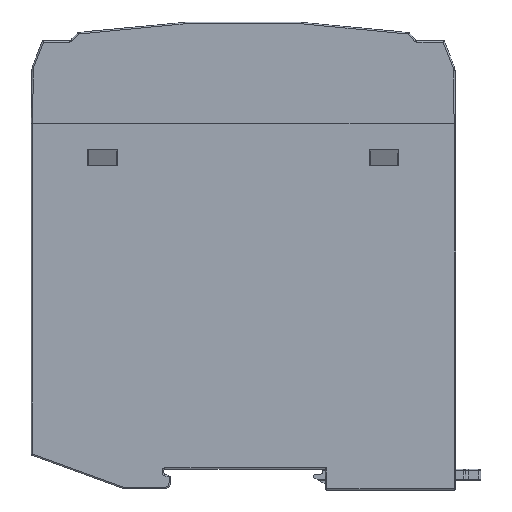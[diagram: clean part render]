
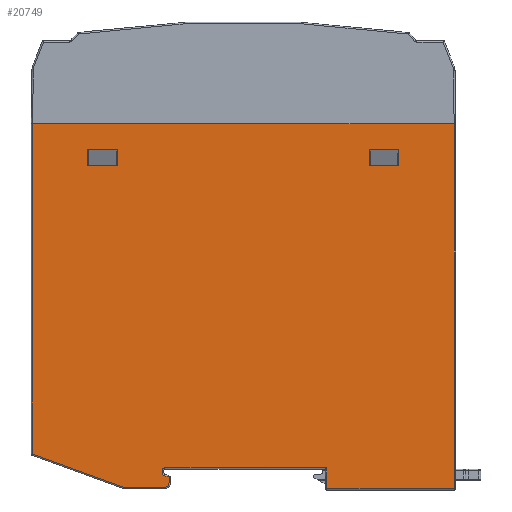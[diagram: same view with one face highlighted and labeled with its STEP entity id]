
A CAD part, left-side view. The second image highlights one B-rep face of the part: STEP entity #20749.
In plain terms, the highlighted planar face has unit normal (-1, 0, 0).
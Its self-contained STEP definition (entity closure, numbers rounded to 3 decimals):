
#10099=DIRECTION('',(0.,0.,1.));
#10100=VECTOR('',#10099,3.5);
#10101=CARTESIAN_POINT('',(229.997,-27.3,-6.595));
#10102=LINE('',#10101,#10100);
#10103=DIRECTION('',(0.,1.,0.));
#10104=VECTOR('',#10103,6.4);
#10105=CARTESIAN_POINT('',(229.997,-33.7,-6.595));
#10106=LINE('',#10105,#10104);
#10107=DIRECTION('',(0.,0.,-1.));
#10108=VECTOR('',#10107,3.5);
#10109=CARTESIAN_POINT('',(229.997,-33.7,-3.095));
#10110=LINE('',#10109,#10108);
#10111=DIRECTION('',(0.,1.,0.));
#10112=VECTOR('',#10111,6.4);
#10113=CARTESIAN_POINT('',(229.997,-33.7,-3.095));
#10114=LINE('',#10113,#10112);
#10115=DIRECTION('',(0.,1.,0.));
#10116=VECTOR('',#10115,6.4);
#10117=CARTESIAN_POINT('',(229.997,27.3,-6.595));
#10118=LINE('',#10117,#10116);
#10119=DIRECTION('',(0.,0.,-1.));
#10120=VECTOR('',#10119,3.5);
#10121=CARTESIAN_POINT('',(229.997,27.3,-3.095));
#10122=LINE('',#10121,#10120);
#10123=DIRECTION('',(0.,1.,0.));
#10124=VECTOR('',#10123,6.4);
#10125=CARTESIAN_POINT('',(229.997,27.3,-3.095));
#10126=LINE('',#10125,#10124);
#10127=DIRECTION('',(0.,0.,1.));
#10128=VECTOR('',#10127,3.5);
#10129=CARTESIAN_POINT('',(229.997,33.7,-6.595));
#10130=LINE('',#10129,#10128);
#10131=DIRECTION('',(0.,0.,-1.));
#10132=VECTOR('',#10131,71.611);
#10133=CARTESIAN_POINT('',(229.997,45.7,2.555));
#10134=LINE('',#10133,#10132);
#10135=DIRECTION('',(0.,1.,0.));
#10136=VECTOR('',#10135,91.4);
#10137=CARTESIAN_POINT('',(229.997,-45.7,2.555));
#10138=LINE('',#10137,#10136);
#10139=DIRECTION('',(0.,0.,1.));
#10140=VECTOR('',#10139,79.1);
#10141=CARTESIAN_POINT('',(229.997,-45.7,-76.545));
#10142=LINE('',#10141,#10140);
#10143=DIRECTION('',(0.,1.,0.));
#10144=VECTOR('',#10143,27.577);
#10145=CARTESIAN_POINT('',(229.997,-45.7,-76.545));
#10146=LINE('',#10145,#10144);
#10147=DIRECTION('',(0.,0.017,1.));
#10148=VECTOR('',#10147,4.501);
#10149=CARTESIAN_POINT('',(229.997,-18.123,-76.545));
#10150=LINE('',#10149,#10148);
#10151=DIRECTION('',(0.,1.,0.));
#10152=VECTOR('',#10151,35.045);
#10153=CARTESIAN_POINT('',(229.997,-18.045,-72.045));
#10154=LINE('',#10153,#10152);
#10155=CARTESIAN_POINT('',(229.997,17.,-72.645));
#10156=DIRECTION('',(1.,0.,0.));
#10157=DIRECTION('',(0.,1.,0.));
#10158=AXIS2_PLACEMENT_3D('',#10155,#10156,#10157);
#10160=DIRECTION('',(0.,0.,1.));
#10161=VECTOR('',#10160,0.49);
#10162=CARTESIAN_POINT('',(229.997,17.6,-73.135));
#10163=LINE('',#10162,#10161);
#10164=CARTESIAN_POINT('',(229.997,17.,-73.135));
#10165=DIRECTION('',(1.,0.,0.));
#10166=DIRECTION('',(0.,0.342,-0.94));
#10167=AXIS2_PLACEMENT_3D('',#10164,#10165,#10166);
#10169=DIRECTION('',(0.,0.94,0.342));
#10170=VECTOR('',#10169,1.176);
#10171=CARTESIAN_POINT('',(229.997,16.1,-74.101));
#10172=LINE('',#10171,#10170);
#10173=DIRECTION('',(0.,0.,1.));
#10174=VECTOR('',#10173,1.194);
#10175=CARTESIAN_POINT('',(229.997,16.1,-75.295));
#10176=LINE('',#10175,#10174);
#10177=CARTESIAN_POINT('',(229.997,17.05,-75.295));
#10178=DIRECTION('',(-1.,0.,0.));
#10179=DIRECTION('',(0.,0.,-1.));
#10180=AXIS2_PLACEMENT_3D('',#10177,#10178,#10179);
#10182=DIRECTION('',(0.,-1.,0.));
#10183=VECTOR('',#10182,8.897);
#10184=CARTESIAN_POINT('',(229.997,25.947,-76.245));
#10185=LINE('',#10184,#10183);
#10186=DIRECTION('',(0.,-0.94,-0.342));
#10187=VECTOR('',#10186,21.021);
#10188=CARTESIAN_POINT('',(229.997,45.7,-69.056));
#10189=LINE('',#10188,#10187);
#18280=CARTESIAN_POINT('',(229.997,-27.3,-6.595));
#18281=CARTESIAN_POINT('',(229.997,-27.3,-3.095));
#18282=VERTEX_POINT('',#18280);
#18283=VERTEX_POINT('',#18281);
#18284=CARTESIAN_POINT('',(229.997,-33.7,-3.095));
#18285=VERTEX_POINT('',#18284);
#18286=CARTESIAN_POINT('',(229.997,-33.7,-6.595));
#18287=VERTEX_POINT('',#18286);
#18288=CARTESIAN_POINT('',(229.997,27.3,-6.595));
#18289=CARTESIAN_POINT('',(229.997,33.7,-6.595));
#18290=VERTEX_POINT('',#18288);
#18291=VERTEX_POINT('',#18289);
#18292=CARTESIAN_POINT('',(229.997,33.7,-3.095));
#18293=VERTEX_POINT('',#18292);
#18294=CARTESIAN_POINT('',(229.997,27.3,-3.095));
#18295=VERTEX_POINT('',#18294);
#18857=CARTESIAN_POINT('',(229.997,45.7,2.555));
#18859=VERTEX_POINT('',#18857);
#18860=CARTESIAN_POINT('',(229.997,45.7,-69.056));
#18861=VERTEX_POINT('',#18860);
#18864=CARTESIAN_POINT('',(229.997,-45.7,-76.545));
#18865=CARTESIAN_POINT('',(229.997,-18.123,-76.545));
#18866=VERTEX_POINT('',#18864);
#18867=VERTEX_POINT('',#18865);
#18913=CARTESIAN_POINT('',(229.997,-18.045,-72.045));
#18914=VERTEX_POINT('',#18913);
#18915=CARTESIAN_POINT('',(229.997,17.,-72.045));
#18916=VERTEX_POINT('',#18915);
#18919=CARTESIAN_POINT('',(229.997,17.6,-73.135));
#18920=CARTESIAN_POINT('',(229.997,17.6,-72.645));
#18921=VERTEX_POINT('',#18919);
#18922=VERTEX_POINT('',#18920);
#18931=CARTESIAN_POINT('',(229.997,16.1,-74.101));
#18932=CARTESIAN_POINT('',(229.997,17.205,-73.699));
#18933=VERTEX_POINT('',#18931);
#18934=VERTEX_POINT('',#18932);
#18939=CARTESIAN_POINT('',(229.997,16.1,-75.295));
#18940=VERTEX_POINT('',#18939);
#18941=CARTESIAN_POINT('',(229.997,17.05,-76.245));
#18942=VERTEX_POINT('',#18941);
#18945=CARTESIAN_POINT('',(229.997,25.947,-76.245));
#18946=VERTEX_POINT('',#18945);
#19036=CARTESIAN_POINT('',(229.997,-45.7,2.555));
#19037=VERTEX_POINT('',#19036);
#20695=CARTESIAN_POINT('',(229.997,46.,-76.545));
#20696=DIRECTION('',(-1.,0.,0.));
#20697=DIRECTION('',(0.,-1.,0.));
#20698=AXIS2_PLACEMENT_3D('',#20695,#20696,#20697);
#20699=PLANE('',#20698);
#20701=ORIENTED_EDGE('',*,*,#20700,.F.);
#20703=ORIENTED_EDGE('',*,*,#20702,.F.);
#20705=ORIENTED_EDGE('',*,*,#20704,.F.);
#20707=ORIENTED_EDGE('',*,*,#20706,.T.);
#20709=ORIENTED_EDGE('',*,*,#20708,.T.);
#20711=ORIENTED_EDGE('',*,*,#20710,.T.);
#20713=ORIENTED_EDGE('',*,*,#20712,.F.);
#20715=ORIENTED_EDGE('',*,*,#20714,.F.);
#20717=ORIENTED_EDGE('',*,*,#20716,.F.);
#20719=ORIENTED_EDGE('',*,*,#20718,.F.);
#20721=ORIENTED_EDGE('',*,*,#20720,.F.);
#20723=ORIENTED_EDGE('',*,*,#20722,.F.);
#20724=ORIENTED_EDGE('',*,*,#20678,.F.);
#20726=ORIENTED_EDGE('',*,*,#20725,.F.);
#20727=EDGE_LOOP('',(#20701,#20703,#20705,#20707,#20709,#20711,#20713,#20715,
#20717,#20719,#20721,#20723,#20724,#20726));
#20728=FACE_OUTER_BOUND('',#20727,.F.);
#20730=ORIENTED_EDGE('',*,*,#20729,.F.);
#20732=ORIENTED_EDGE('',*,*,#20731,.F.);
#20734=ORIENTED_EDGE('',*,*,#20733,.T.);
#20736=ORIENTED_EDGE('',*,*,#20735,.F.);
#20737=EDGE_LOOP('',(#20730,#20732,#20734,#20736));
#20738=FACE_BOUND('',#20737,.F.);
#20740=ORIENTED_EDGE('',*,*,#20739,.F.);
#20742=ORIENTED_EDGE('',*,*,#20741,.F.);
#20744=ORIENTED_EDGE('',*,*,#20743,.F.);
#20746=ORIENTED_EDGE('',*,*,#20745,.T.);
#20747=EDGE_LOOP('',(#20740,#20742,#20744,#20746));
#20748=FACE_BOUND('',#20747,.F.);
#20749=ADVANCED_FACE('',(#20728,#20738,#20748),#20699,.T.);
#10159=CIRCLE('',#10158,0.6);
#10168=CIRCLE('',#10167,0.6);
#10181=CIRCLE('',#10180,0.95);
#20678=EDGE_CURVE('',#18946,#18942,#10185,.T.);
#20700=EDGE_CURVE('',#18859,#18861,#10134,.T.);
#20702=EDGE_CURVE('',#19037,#18859,#10138,.T.);
#20704=EDGE_CURVE('',#18866,#19037,#10142,.T.);
#20706=EDGE_CURVE('',#18866,#18867,#10146,.T.);
#20708=EDGE_CURVE('',#18867,#18914,#10150,.T.);
#20710=EDGE_CURVE('',#18914,#18916,#10154,.T.);
#20712=EDGE_CURVE('',#18922,#18916,#10159,.T.);
#20714=EDGE_CURVE('',#18921,#18922,#10163,.T.);
#20716=EDGE_CURVE('',#18934,#18921,#10168,.T.);
#20718=EDGE_CURVE('',#18933,#18934,#10172,.T.);
#20720=EDGE_CURVE('',#18940,#18933,#10176,.T.);
#20722=EDGE_CURVE('',#18942,#18940,#10181,.T.);
#20725=EDGE_CURVE('',#18861,#18946,#10189,.T.);
#20729=EDGE_CURVE('',#18290,#18291,#10118,.T.);
#20731=EDGE_CURVE('',#18295,#18290,#10122,.T.);
#20733=EDGE_CURVE('',#18295,#18293,#10126,.T.);
#20735=EDGE_CURVE('',#18291,#18293,#10130,.T.);
#20739=EDGE_CURVE('',#18282,#18283,#10102,.T.);
#20741=EDGE_CURVE('',#18287,#18282,#10106,.T.);
#20743=EDGE_CURVE('',#18285,#18287,#10110,.T.);
#20745=EDGE_CURVE('',#18285,#18283,#10114,.T.);
